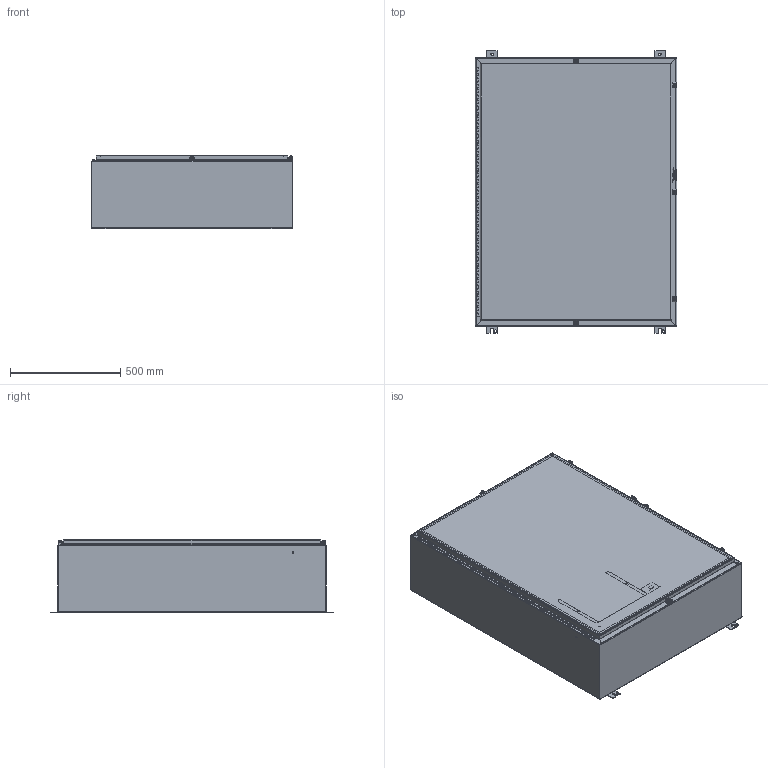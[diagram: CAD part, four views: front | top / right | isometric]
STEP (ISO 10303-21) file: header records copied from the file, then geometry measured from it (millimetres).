
FILE_DESCRIPTION((''),'2;1');
FILE_NAME('MODEL-303_ASM','2026-04-15T08:57:36',('ChadS'),('SAGINAW CONTROL & ENGINEERING'),'CREO PARAMETRIC BY PTC INC, 2021284','CREO PARAMETRIC BY PTC INC, 2021284','');
FILE_SCHEMA(('AUTOMOTIVE_DESIGN { 1 0 10303 214 1 1 1 1 }'));
Length unit declared in the file: inch
Products named in the file (30): MODEL-303-BDY; MODEL-303-TP; MODEL-303-BTM; MODEL-303-DR; 100837; 100882; 111267; 125597; 118923_DR; 118923_PIN; 118923_BX; 118923_STUD; 118923_ASM; 100897; MODEL-303-DOOR-GASKET; 128600; 102483; MODEL-303-DOOR-ASSY_ASM; 102211; 101653; 121454; 120131_BASE; 120131_CLAMP; 120131_SCREW; 120131_CLOSED_ASM; 120134; SUBPANEL; 100904; SUBPANEL-SUBASSEMBLY_ASM; MODEL-303_ASM
Assembly tree (71 placements, depth 4):
  MODEL-303_ASM
    MODEL-303-BDY
    MODEL-303-TP
    MODEL-303-BTM
    MODEL-303-DOOR-ASSY_ASM
      MODEL-303-DR
      100837  x3
      100882  x2
      111267
      125597
      118923_ASM
        118923_DR
        118923_PIN
        118923_BX
        118923_STUD  x7
      100897  x7
      MODEL-303-DOOR-GASKET
      128600
      102483
    102211  x4
    100837
    101653  x8
    121454
    120131_CLOSED_ASM  x5
      120131_BASE
      120131_CLAMP
      120131_SCREW
    100882  x5
    120134
    SUBPANEL-SUBASSEMBLY_ASM
      SUBPANEL
      100904  x8
Bounding box: 914.4 x 1282.7 x 335.48 mm (x, y, z)
Volume: 11062102.6 mm3; surface area: 10081575.1 mm2
Topology: 74 solids, 74 shells, 5645 faces, 14683 edges, 9256 vertices
Faces by surface type: plane 2329, bspline 1375, cylinder 1278, torus 342, sphere 179, cone 142
Entity records: 114113 total; most frequent: CARTESIAN_POINT 33155, ORIENTED_EDGE 12166, DIRECTION 11247, PRESENTATION_STYLE_ASSIGNMENT 6214, STYLED_ITEM 6212, CURVE_STYLE 6083, EDGE_CURVE 6083, VERTEX_POINT 3848
